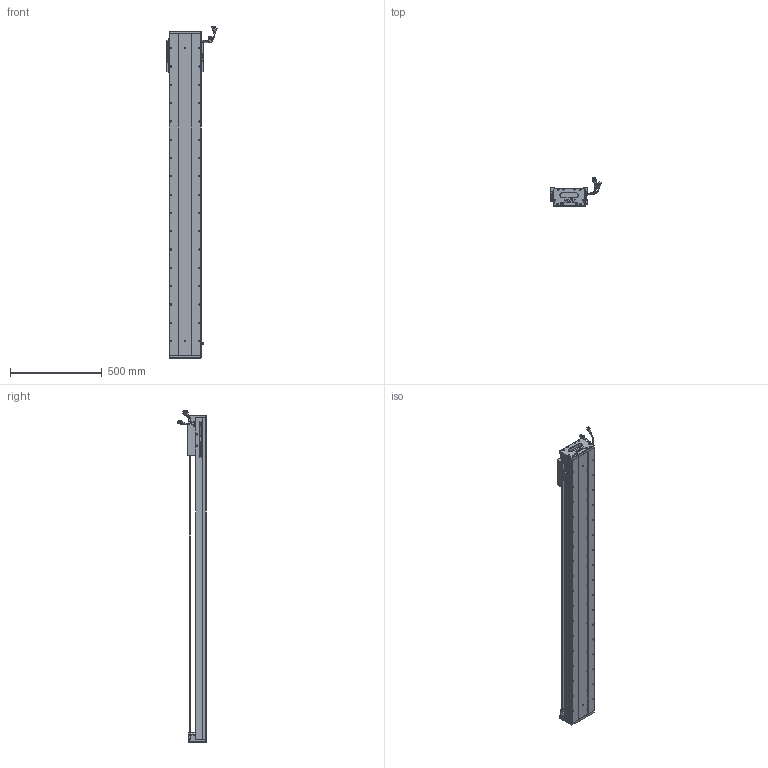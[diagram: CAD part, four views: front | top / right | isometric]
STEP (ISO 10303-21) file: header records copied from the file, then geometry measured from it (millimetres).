
FILE_DESCRIPTION (( 'STEP AP203' ), '1' );
FILE_NAME ('Z2-RY170D-1-L500-B-K.SLDASM_1500.step', '2021-05-17T09:08:23', ( '盈信电脑' ), ( '东莞市道滘镇水果街19号' ), 'SwSTEP 2.0', 'SolidWorks 2016', '' );
FILE_SCHEMA (( 'CONFIG_CONTROL_DESIGN' ));
Length unit declared in the file: millimetre
Products named in the file (36): SCALE-Part-2; SCREW-M1.6-1; LABEL-Part-1; COVER-Part-1; SCREW-M1.6-3; PSLH080_PSLF2; 榋妏寠巭燃_暯_M2_2; SEAL-Part-1; HARNESS; Z-170詩湍傷裔啣; Z-RY170詩湍奻揤裔; 170-Z-臏賑輸盄裔(21遴); HARNESS-Part-1; LABEL; 080黍杅芛假蚾釱21遴; COVER; SCREW-M1.7-1; SCREW-M1.6; Z-RY170詩湍狟揤裔; 140蚥薯蝶輸; Z2-RY170-L500詩湍145mm遵_1500; Z2-RY170臏賑輸(21遴); RY170直线电机感应器672光电感应片; SCALE; PBU_SHEET; Z2-RY170-L500耀郪菁釱_1500; HOLDER0; SEAL; SHIELDPLATE; Z2-RY170D-1-L500-B-K.SLDASM_1500; SCALE-Part-1; 覜茼ん672; 140雄赽晤鎢ん堤盄; HARNESS-Part-2; SCREW-M1.7; SCREW-M1.6-2
Assembly tree (41 placements, depth 4):
  Z2-RY170D-1-L500-B-K.SLDASM_1500
    Z2-RY170-L500耀郪菁釱_1500
    RY170直线电机感应器672光电感应片
    Z2-RY170臏賑輸(21遴)
    覜茼ん672  x3
    PSLH080_PSLF2
      SCALE
        SCALE-Part-1
        SCALE-Part-2
      HARNESS
        HARNESS-Part-1
        HARNESS-Part-2
      LABEL
        LABEL-Part-1
      COVER
        COVER-Part-1
      SEAL
        SEAL-Part-1
      榋妏寠巭燃_暯_M2_2
      SHIELDPLATE
      SCREW-M1.7
      SCREW-M1.7-1
      PBU_SHEET
      SCREW-M1.6
      SCREW-M1.6-1
      SCREW-M1.6-2
      SCREW-M1.6-3
      HOLDER0
    080黍杅芛假蚾釱21遴
    Z2-RY170-L500詩湍145mm遵_1500
    Z-170詩湍傷裔啣  x2
    Z-RY170詩湍奻揤裔  x2
    Z-RY170詩湍狟揤裔  x2
    140蚥薯蝶輸  x2
    170-Z-臏賑輸盄裔(21遴)
    140雄赽晤鎢ん堤盄
Bounding box: 275.33 x 158.11 x 1813.72 mm (x, y, z)
Volume: 9290787.2 mm3; surface area: 2287524.5 mm2
Topology: 36 solids, 36 shells, 3490 faces, 9509 edges, 5957 vertices
Faces by surface type: cylinder 1672, plane 1228, cone 468, torus 69, bspline 53
Entity records: 106141 total; most frequent: CARTESIAN_POINT 28410, ORIENTED_EDGE 15686, DIRECTION 15019, EDGE_CURVE 7843, AXIS2_PLACEMENT_3D 5516, VERTEX_POINT 5075, LINE 3987, VECTOR 3987
